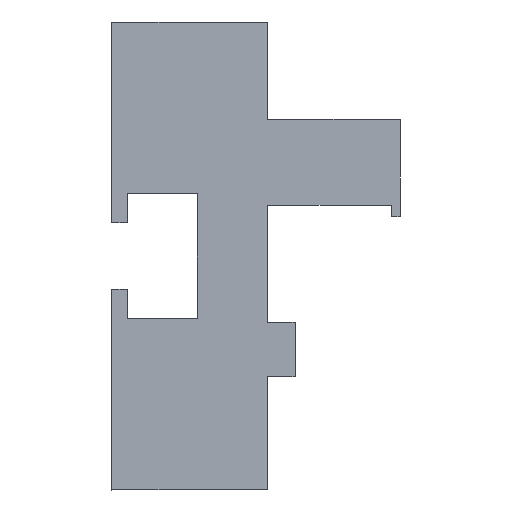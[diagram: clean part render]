
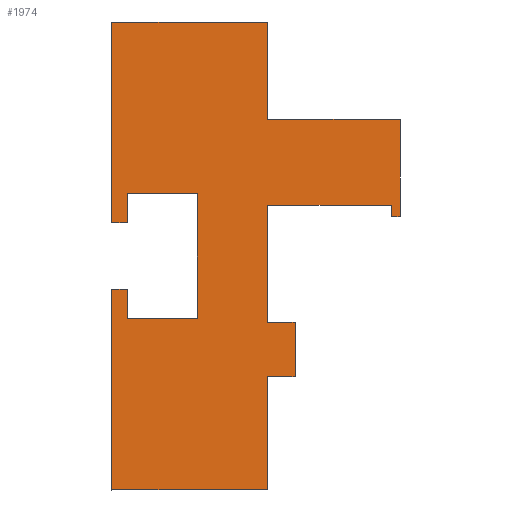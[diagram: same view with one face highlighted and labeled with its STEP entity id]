
A CAD part, left-side view. The second image highlights one B-rep face of the part: STEP entity #1974.
In plain terms, the highlighted planar face has unit normal (-0.707, -0.707, 0).
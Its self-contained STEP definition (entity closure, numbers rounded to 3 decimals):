
#1023=ORIENTED_EDGE('',*,*,#1400,.F.);
#1024=ORIENTED_EDGE('',*,*,#1404,.F.);
#1025=ORIENTED_EDGE('',*,*,#1428,.F.);
#1026=ORIENTED_EDGE('',*,*,#1429,.F.);
#1027=ORIENTED_EDGE('',*,*,#1430,.F.);
#1028=ORIENTED_EDGE('',*,*,#1431,.F.);
#1029=ORIENTED_EDGE('',*,*,#1432,.F.);
#1030=ORIENTED_EDGE('',*,*,#1433,.F.);
#1031=ORIENTED_EDGE('',*,*,#1434,.F.);
#1032=ORIENTED_EDGE('',*,*,#1435,.F.);
#1033=ORIENTED_EDGE('',*,*,#1436,.F.);
#1034=ORIENTED_EDGE('',*,*,#1437,.F.);
#1035=ORIENTED_EDGE('',*,*,#1438,.F.);
#1036=ORIENTED_EDGE('',*,*,#1439,.F.);
#1037=ORIENTED_EDGE('',*,*,#1440,.F.);
#1038=ORIENTED_EDGE('',*,*,#1441,.F.);
#1039=ORIENTED_EDGE('',*,*,#1442,.F.);
#1040=ORIENTED_EDGE('',*,*,#1443,.F.);
#1041=ORIENTED_EDGE('',*,*,#1444,.F.);
#1042=ORIENTED_EDGE('',*,*,#1445,.F.);
#1043=ORIENTED_EDGE('',*,*,#1426,.F.);
#1044=ORIENTED_EDGE('',*,*,#1390,.F.);
#1045=ORIENTED_EDGE('',*,*,#1397,.F.);
#1157=VECTOR('',#1556,1.);
#1162=VECTOR('',#1567,1.);
#1165=VECTOR('',#1572,1.);
#1168=VECTOR('',#1579,1.);
#1190=VECTOR('',#1605,1.);
#1192=VECTOR('',#1609,1.);
#1193=VECTOR('',#1610,1.);
#1194=VECTOR('',#1611,1.);
#1195=VECTOR('',#1612,1.);
#1196=VECTOR('',#1613,1.);
#1197=VECTOR('',#1614,1.);
#1198=VECTOR('',#1615,1.);
#1199=VECTOR('',#1616,1.);
#1200=VECTOR('',#1617,1.);
#1201=VECTOR('',#1618,1.);
#1202=VECTOR('',#1619,1.);
#1203=VECTOR('',#1620,1.);
#1204=VECTOR('',#1621,1.);
#1205=VECTOR('',#1622,1.);
#1206=VECTOR('',#1623,1.);
#1207=VECTOR('',#1624,1.);
#1208=VECTOR('',#1625,1.);
#1209=VECTOR('',#1626,1.);
#1242=LINE('',#1728,#1157);
#1247=LINE('',#1741,#1162);
#1250=LINE('',#1747,#1165);
#1253=LINE('',#1754,#1168);
#1275=LINE('',#1797,#1190);
#1277=LINE('',#1801,#1192);
#1278=LINE('',#1803,#1193);
#1279=LINE('',#1805,#1194);
#1280=LINE('',#1807,#1195);
#1281=LINE('',#1809,#1196);
#1282=LINE('',#1811,#1197);
#1283=LINE('',#1813,#1198);
#1284=LINE('',#1815,#1199);
#1285=LINE('',#1817,#1200);
#1286=LINE('',#1819,#1201);
#1287=LINE('',#1821,#1202);
#1288=LINE('',#1823,#1203);
#1289=LINE('',#1825,#1204);
#1290=LINE('',#1827,#1205);
#1291=LINE('',#1829,#1206);
#1292=LINE('',#1831,#1207);
#1293=LINE('',#1833,#1208);
#1294=LINE('',#1834,#1209);
#1326=VERTEX_POINT('',#1724);
#1328=VERTEX_POINT('',#1727);
#1332=VERTEX_POINT('',#1738);
#1334=VERTEX_POINT('',#1744);
#1337=VERTEX_POINT('',#1752);
#1356=VERTEX_POINT('',#1796);
#1357=VERTEX_POINT('',#1800);
#1358=VERTEX_POINT('',#1802);
#1359=VERTEX_POINT('',#1804);
#1360=VERTEX_POINT('',#1806);
#1361=VERTEX_POINT('',#1808);
#1362=VERTEX_POINT('',#1810);
#1363=VERTEX_POINT('',#1812);
#1364=VERTEX_POINT('',#1814);
#1365=VERTEX_POINT('',#1816);
#1366=VERTEX_POINT('',#1818);
#1367=VERTEX_POINT('',#1820);
#1368=VERTEX_POINT('',#1822);
#1369=VERTEX_POINT('',#1824);
#1370=VERTEX_POINT('',#1826);
#1371=VERTEX_POINT('',#1828);
#1372=VERTEX_POINT('',#1830);
#1373=VERTEX_POINT('',#1832);
#1390=EDGE_CURVE('',#1326,#1328,#1242,.T.);
#1397=EDGE_CURVE('',#1332,#1326,#1247,.T.);
#1400=EDGE_CURVE('',#1334,#1332,#1250,.T.);
#1404=EDGE_CURVE('',#1337,#1334,#1253,.T.);
#1426=EDGE_CURVE('',#1328,#1356,#1275,.T.);
#1428=EDGE_CURVE('',#1357,#1337,#1277,.T.);
#1429=EDGE_CURVE('',#1358,#1357,#1278,.T.);
#1430=EDGE_CURVE('',#1359,#1358,#1279,.T.);
#1431=EDGE_CURVE('',#1360,#1359,#1280,.T.);
#1432=EDGE_CURVE('',#1361,#1360,#1281,.T.);
#1433=EDGE_CURVE('',#1362,#1361,#1282,.T.);
#1434=EDGE_CURVE('',#1363,#1362,#1283,.T.);
#1435=EDGE_CURVE('',#1364,#1363,#1284,.T.);
#1436=EDGE_CURVE('',#1365,#1364,#1285,.T.);
#1437=EDGE_CURVE('',#1366,#1365,#1286,.T.);
#1438=EDGE_CURVE('',#1367,#1366,#1287,.T.);
#1439=EDGE_CURVE('',#1368,#1367,#1288,.T.);
#1440=EDGE_CURVE('',#1369,#1368,#1289,.T.);
#1441=EDGE_CURVE('',#1370,#1369,#1290,.T.);
#1442=EDGE_CURVE('',#1371,#1370,#1291,.T.);
#1443=EDGE_CURVE('',#1372,#1371,#1292,.T.);
#1444=EDGE_CURVE('',#1373,#1372,#1293,.T.);
#1445=EDGE_CURVE('',#1356,#1373,#1294,.T.);
#1483=EDGE_LOOP('',(#1023,#1024,#1025,#1026,#1027,#1028,#1029,#1030,#1031,
#1032,#1033,#1034,#1035,#1036,#1037,#1038,#1039,#1040,#1041,#1042,#1043,
#1044,#1045));
#1516=FACE_BOUND('',#1483,.T.);
#1556=DIRECTION('',(0.,0.,25.75));
#1567=DIRECTION('',(-2.,2.,0.));
#1572=DIRECTION('',(0.,0.,-3.75));
#1579=DIRECTION('',(-9.,9.,0.));
#1605=DIRECTION('',(20.,-20.,0.));
#1607=DIRECTION('',(-0.707,-0.707,0.));
#1608=DIRECTION('',(-0.707,0.707,0.));
#1609=DIRECTION('',(0.,0.,16.));
#1610=DIRECTION('',(9.,-9.,0.));
#1611=DIRECTION('',(0.,0.,-3.75));
#1612=DIRECTION('',(2.,-2.,0.));
#1613=DIRECTION('',(0.,0.,25.75));
#1614=DIRECTION('',(-20.,20.,0.));
#1615=DIRECTION('',(0.,0.,-14.5));
#1616=DIRECTION('',(-3.504,3.504,0.));
#1617=DIRECTION('',(0.,0.,-7.));
#1618=DIRECTION('',(3.504,-3.504,0.));
#1619=DIRECTION('',(0.,0.,-15.007));
#1620=DIRECTION('',(-15.861,15.861,0.));
#1621=DIRECTION('',(0.,0.,1.5));
#1622=DIRECTION('',(-1.139,1.139,0.));
#1623=DIRECTION('',(0.,0.,-1.5));
#1624=DIRECTION('',(0.,0.,-10.993));
#1625=DIRECTION('',(17.,-17.,0.));
#1626=DIRECTION('',(0.,0.,-12.5));
#1724=CARTESIAN_POINT('',(-330.,0.,4.25));
#1727=CARTESIAN_POINT('',(-330.,0.,30.));
#1728=CARTESIAN_POINT('',(-330.,0.,4.25));
#1738=CARTESIAN_POINT('',(-328.,-2.,4.25));
#1741=CARTESIAN_POINT('',(-328.,-2.,4.25));
#1744=CARTESIAN_POINT('',(-328.,-2.,8.));
#1747=CARTESIAN_POINT('',(-328.,-2.,8.));
#1752=CARTESIAN_POINT('',(-319.,-11.,8.));
#1754=CARTESIAN_POINT('',(-319.,-11.,8.));
#1796=CARTESIAN_POINT('',(-310.,-20.,30.));
#1797=CARTESIAN_POINT('',(-330.,0.,30.));
#1799=CARTESIAN_POINT('',(-319.163,-10.837,0.));
#1800=CARTESIAN_POINT('',(-319.,-11.,-8.));
#1801=CARTESIAN_POINT('',(-319.,-11.,-8.));
#1802=CARTESIAN_POINT('',(-328.,-2.,-8.));
#1803=CARTESIAN_POINT('',(-328.,-2.,-8.));
#1804=CARTESIAN_POINT('',(-328.,-2.,-4.25));
#1805=CARTESIAN_POINT('',(-328.,-2.,-4.25));
#1806=CARTESIAN_POINT('',(-330.,0.,-4.25));
#1807=CARTESIAN_POINT('',(-330.,0.,-4.25));
#1808=CARTESIAN_POINT('',(-330.,0.,-30.));
#1809=CARTESIAN_POINT('',(-330.,0.,-30.));
#1810=CARTESIAN_POINT('',(-310.,-20.,-30.));
#1811=CARTESIAN_POINT('',(-310.,-20.,-30.));
#1812=CARTESIAN_POINT('',(-310.,-20.,-15.5));
#1813=CARTESIAN_POINT('',(-310.,-20.,-15.5));
#1814=CARTESIAN_POINT('',(-306.496,-23.504,-15.5));
#1815=CARTESIAN_POINT('',(-306.496,-23.504,-15.5));
#1816=CARTESIAN_POINT('',(-306.496,-23.504,-8.5));
#1817=CARTESIAN_POINT('',(-306.496,-23.504,-8.5));
#1818=CARTESIAN_POINT('',(-310.,-20.,-8.5));
#1819=CARTESIAN_POINT('',(-310.,-20.,-8.5));
#1820=CARTESIAN_POINT('',(-310.,-20.,6.507));
#1821=CARTESIAN_POINT('',(-310.,-20.,6.507));
#1822=CARTESIAN_POINT('',(-294.139,-35.861,6.507));
#1823=CARTESIAN_POINT('',(-294.139,-35.861,6.507));
#1824=CARTESIAN_POINT('',(-294.139,-35.861,5.007));
#1825=CARTESIAN_POINT('',(-294.139,-35.861,5.007));
#1826=CARTESIAN_POINT('',(-293.,-37.,5.007));
#1827=CARTESIAN_POINT('',(-293.,-37.,5.007));
#1828=CARTESIAN_POINT('',(-293.,-37.,6.507));
#1829=CARTESIAN_POINT('',(-293.,-37.,6.507));
#1830=CARTESIAN_POINT('',(-293.,-37.,17.5));
#1831=CARTESIAN_POINT('',(-293.,-37.,17.5));
#1832=CARTESIAN_POINT('',(-310.,-20.,17.5));
#1833=CARTESIAN_POINT('',(-310.,-20.,17.5));
#1834=CARTESIAN_POINT('',(-310.,-20.,30.));
#1908=AXIS2_PLACEMENT_3D('',#1799,#1607,#1608);
#1945=PLANE('',#1908);
#1974=ADVANCED_FACE('',(#1516),#1945,.T.);
